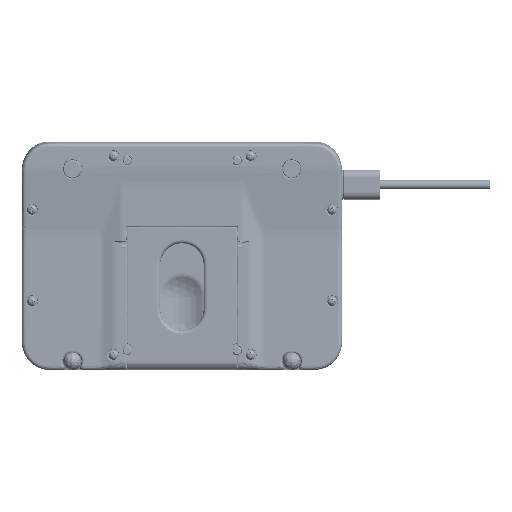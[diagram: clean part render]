
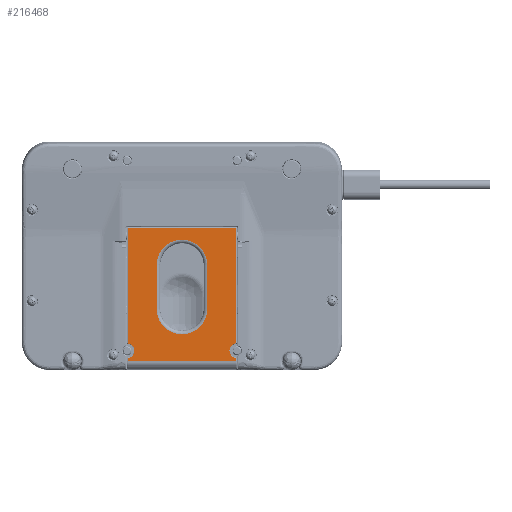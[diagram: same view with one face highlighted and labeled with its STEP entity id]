
A CAD part, top view. The second image highlights one B-rep face of the part: STEP entity #216468.
In plain terms, the highlighted planar face has unit normal (0, 0, 1).
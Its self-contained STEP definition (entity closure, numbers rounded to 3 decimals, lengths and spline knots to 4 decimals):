
#201 = CIRCLE ( 'NONE', #175508, 0.0187 ) ;
#466 = CARTESIAN_POINT ( 'NONE',  ( 1.5, -2.5978, 0.3637 ) ) ;
#540 = DIRECTION ( 'NONE',  ( -1., 0., 0. ) ) ;
#577 = ORIENTED_EDGE ( 'NONE', *, *, #5697, .T. ) ;
#3272 = EDGE_CURVE ( 'NONE', #155389, #196557, #11173, .T. ) ;
#5697 = EDGE_CURVE ( 'NONE', #197631, #163176, #47316, .T. ) ;
#5786 = DIRECTION ( 'NONE',  ( -1., 0., 0. ) ) ;
#6055 = ORIENTED_EDGE ( 'NONE', *, *, #10064, .T. ) ;
#6898 = CARTESIAN_POINT ( 'NONE',  ( 1.4688, -2.3813, 0.3637 ) ) ;
#10064 = EDGE_CURVE ( 'NONE', #45085, #126606, #121980, .T. ) ;
#10121 = LINE ( 'NONE', #226229, #176381 ) ;
#11173 = LINE ( 'NONE', #170160, #69679 ) ;
#12332 = CARTESIAN_POINT ( 'NONE',  ( -0.6937, -1.4551, 0.3637 ) ) ;
#15131 = CARTESIAN_POINT ( 'NONE',  ( -0.6938, -1.2551, 0.3637 ) ) ;
#18212 = ORIENTED_EDGE ( 'NONE', *, *, #144513, .T. ) ;
#18592 = FACE_OUTER_BOUND ( 'NONE', #165431, .T. ) ;
#21418 = CIRCLE ( 'NONE', #151989, 0.0187 ) ;
#21944 = DIRECTION ( 'NONE',  ( 0., 0., -1. ) ) ;
#25001 = AXIS2_PLACEMENT_3D ( 'NONE', #6898, #167013, #5786 ) ;
#27507 = EDGE_CURVE ( 'NONE', #163176, #156752, #10121, .T. ) ;
#31452 = ORIENTED_EDGE ( 'NONE', *, *, #216418, .T. ) ;
#31868 = CIRCLE ( 'NONE', #72868, 0.6937 ) ;
#39203 = CARTESIAN_POINT ( 'NONE',  ( 0.6937, -1.4551, 0.3637 ) ) ;
#39466 = DIRECTION ( 'NONE',  ( -1., 0., 0. ) ) ;
#41490 = VERTEX_POINT ( 'NONE', #190315 ) ;
#43205 = CARTESIAN_POINT ( 'NONE',  ( 1.4875, -1.2551, 0.3637 ) ) ;
#45085 = VERTEX_POINT ( 'NONE', #102358 ) ;
#46898 = VECTOR ( 'NONE', #184648, 39.3701 ) ;
#47107 = CARTESIAN_POINT ( 'NONE',  ( -1.4875, 0.746, 0.3637 ) ) ;
#47316 = LINE ( 'NONE', #115158, #202031 ) ;
#47652 = AXIS2_PLACEMENT_3D ( 'NONE', #156710, #21944, #39466 ) ;
#52189 = CARTESIAN_POINT ( 'NONE',  ( -1.4875, -1.2551, 0.3637 ) ) ;
#53659 = CARTESIAN_POINT ( 'NONE',  ( 1.4875, -2.8143, 0.3637 ) ) ;
#58044 = CARTESIAN_POINT ( 'NONE',  ( 0., -1.4551, 0.3637 ) ) ;
#58214 = FACE_BOUND ( 'NONE', #138550, .T. ) ;
#66942 = VERTEX_POINT ( 'NONE', #140277 ) ;
#68607 = DIRECTION ( 'NONE',  ( 0., 0., 1. ) ) ;
#68825 = CARTESIAN_POINT ( 'NONE',  ( -1.4875, -2.8926, 0.3637 ) ) ;
#69679 = VECTOR ( 'NONE', #206335, 39.3701 ) ;
#70458 = EDGE_CURVE ( 'NONE', #84736, #172700, #21418, .T. ) ;
#72868 = AXIS2_PLACEMENT_3D ( 'NONE', #58044, #129380, #111817 ) ;
#76438 = ORIENTED_EDGE ( 'NONE', *, *, #3272, .T. ) ;
#77229 = LINE ( 'NONE', #205671, #128409 ) ;
#77597 = CARTESIAN_POINT ( 'NONE',  ( 0., -0.2551, 0.3637 ) ) ;
#79579 = EDGE_CURVE ( 'NONE', #176491, #231077, #212252, .T. ) ;
#81959 = CARTESIAN_POINT ( 'NONE',  ( 1.4714, -2.7957, 0.3637 ) ) ;
#84736 = VERTEX_POINT ( 'NONE', #53659 ) ;
#86399 = DIRECTION ( 'NONE',  ( 0., 1., 0. ) ) ;
#88940 = CIRCLE ( 'NONE', #47652, 0.2 ) ;
#89352 = CARTESIAN_POINT ( 'NONE',  ( -1.4688, -2.3813, 0.3637 ) ) ;
#92699 = DIRECTION ( 'NONE',  ( -1., 0., 0. ) ) ;
#94453 = DIRECTION ( 'NONE',  ( -1., 0., 0. ) ) ;
#94695 = LINE ( 'NONE', #43205, #46898 ) ;
#94920 = CARTESIAN_POINT ( 'NONE',  ( 1.4875, -2.3813, 0.3637 ) ) ;
#96458 = DIRECTION ( 'NONE',  ( -1., 0., 0. ) ) ;
#99137 = ORIENTED_EDGE ( 'NONE', *, *, #27507, .T. ) ;
#102358 = CARTESIAN_POINT ( 'NONE',  ( 1.4714, -2.3998, 0.3637 ) ) ;
#103849 = CARTESIAN_POINT ( 'NONE',  ( -0.6938, -0.2551, 0.3637 ) ) ;
#107149 = EDGE_CURVE ( 'NONE', #156752, #109821, #189531, .T. ) ;
#109821 = VERTEX_POINT ( 'NONE', #169360 ) ;
#111817 = DIRECTION ( 'NONE',  ( -1., 0., 0. ) ) ;
#112124 = AXIS2_PLACEMENT_3D ( 'NONE', #466, #128975, #92699 ) ;
#114951 = AXIS2_PLACEMENT_3D ( 'NONE', #89352, #124480, #540 ) ;
#115158 = CARTESIAN_POINT ( 'NONE',  ( 0., 0.746, 0.3637 ) ) ;
#116333 = LINE ( 'NONE', #186413, #145568 ) ;
#118082 = DIRECTION ( 'NONE',  ( 0., 1., 0. ) ) ;
#119788 = VECTOR ( 'NONE', #86399, 39.3701 ) ;
#121980 = CIRCLE ( 'NONE', #25001, 0.0187 ) ;
#124480 = DIRECTION ( 'NONE',  ( 0., 0., 1. ) ) ;
#126133 = CARTESIAN_POINT ( 'NONE',  ( 0., -1.2551, 0.3637 ) ) ;
#126606 = VERTEX_POINT ( 'NONE', #94920 ) ;
#128409 = VECTOR ( 'NONE', #118082, 39.3701 ) ;
#128975 = DIRECTION ( 'NONE',  ( 0., 0., -1. ) ) ;
#129380 = DIRECTION ( 'NONE',  ( 0., 0., -1. ) ) ;
#129552 = PLANE ( 'NONE',  #194495 ) ;
#130232 = DIRECTION ( 'NONE',  ( 0., 0., -1. ) ) ;
#133953 = EDGE_CURVE ( 'NONE', #109821, #41490, #88940, .T. ) ;
#134442 = ORIENTED_EDGE ( 'NONE', *, *, #151635, .T. ) ;
#138550 = EDGE_LOOP ( 'NONE', ( #31452, #18212, #76438, #173852 ) ) ;
#138783 = EDGE_CURVE ( 'NONE', #231077, #66942, #116333, .T. ) ;
#140277 = CARTESIAN_POINT ( 'NONE',  ( 1.4875, -2.8926, 0.3637 ) ) ;
#140612 = ORIENTED_EDGE ( 'NONE', *, *, #146747, .T. ) ;
#142212 = DIRECTION ( 'NONE',  ( 0., -1., 0. ) ) ;
#144513 = EDGE_CURVE ( 'NONE', #195788, #155389, #172747, .T. ) ;
#145568 = VECTOR ( 'NONE', #203954, 39.3701 ) ;
#146747 = EDGE_CURVE ( 'NONE', #126606, #197631, #77229, .T. ) ;
#148212 = CARTESIAN_POINT ( 'NONE',  ( -1.4688, -2.8143, 0.3637 ) ) ;
#151635 = EDGE_CURVE ( 'NONE', #66942, #84736, #94695, .T. ) ;
#151989 = AXIS2_PLACEMENT_3D ( 'NONE', #203469, #154349, #170717 ) ;
#154349 = DIRECTION ( 'NONE',  ( 0., 0., 1. ) ) ;
#155389 = VERTEX_POINT ( 'NONE', #218426 ) ;
#156710 = CARTESIAN_POINT ( 'NONE',  ( -1.5, -2.5978, 0.3637 ) ) ;
#156752 = VERTEX_POINT ( 'NONE', #161061 ) ;
#159269 = EDGE_CURVE ( 'NONE', #172700, #45085, #183000, .T. ) ;
#159717 = EDGE_CURVE ( 'NONE', #41490, #176491, #201, .T. ) ;
#161061 = CARTESIAN_POINT ( 'NONE',  ( -1.4875, -2.3813, 0.3637 ) ) ;
#163176 = VERTEX_POINT ( 'NONE', #47107 ) ;
#163669 = ORIENTED_EDGE ( 'NONE', *, *, #159717, .T. ) ;
#165431 = EDGE_LOOP ( 'NONE', ( #577, #99137, #209827, #221518, #163669, #211166, #187559, #134442, #218777, #180423, #6055, #140612 ) ) ;
#167013 = DIRECTION ( 'NONE',  ( 0., 0., 1. ) ) ;
#167555 = DIRECTION ( 'NONE',  ( -1., 0., 0. ) ) ;
#169243 = EDGE_CURVE ( 'NONE', #196557, #228700, #31868, .T. ) ;
#169360 = CARTESIAN_POINT ( 'NONE',  ( -1.4714, -2.3998, 0.3637 ) ) ;
#170160 = CARTESIAN_POINT ( 'NONE',  ( 0.6937, -1.2551, 0.3637 ) ) ;
#170717 = DIRECTION ( 'NONE',  ( -1., 0., 0. ) ) ;
#172700 = VERTEX_POINT ( 'NONE', #81959 ) ;
#172747 = CIRCLE ( 'NONE', #176436, 0.6937 ) ;
#173852 = ORIENTED_EDGE ( 'NONE', *, *, #169243, .T. ) ;
#175216 = LINE ( 'NONE', #15131, #119788 ) ;
#175508 = AXIS2_PLACEMENT_3D ( 'NONE', #148212, #68607, #206524 ) ;
#176381 = VECTOR ( 'NONE', #207558, 39.3701 ) ;
#176436 = AXIS2_PLACEMENT_3D ( 'NONE', #77597, #130232, #167555 ) ;
#176491 = VERTEX_POINT ( 'NONE', #215501 ) ;
#180423 = ORIENTED_EDGE ( 'NONE', *, *, #159269, .T. ) ;
#183000 = CIRCLE ( 'NONE', #112124, 0.2 ) ;
#184648 = DIRECTION ( 'NONE',  ( 0., 1., 0. ) ) ;
#186413 = CARTESIAN_POINT ( 'NONE',  ( 0., -2.8926, 0.3637 ) ) ;
#187559 = ORIENTED_EDGE ( 'NONE', *, *, #138783, .T. ) ;
#189531 = CIRCLE ( 'NONE', #114951, 0.0187 ) ;
#190315 = CARTESIAN_POINT ( 'NONE',  ( -1.4714, -2.7957, 0.3637 ) ) ;
#194495 = AXIS2_PLACEMENT_3D ( 'NONE', #126133, #217132, #94453 ) ;
#195788 = VERTEX_POINT ( 'NONE', #103849 ) ;
#196557 = VERTEX_POINT ( 'NONE', #39203 ) ;
#197631 = VERTEX_POINT ( 'NONE', #215398 ) ;
#202031 = VECTOR ( 'NONE', #96458, 39.3701 ) ;
#203469 = CARTESIAN_POINT ( 'NONE',  ( 1.4688, -2.8143, 0.3637 ) ) ;
#203954 = DIRECTION ( 'NONE',  ( 1., 0., 0. ) ) ;
#205671 = CARTESIAN_POINT ( 'NONE',  ( 1.4875, -1.2551, 0.3637 ) ) ;
#206335 = DIRECTION ( 'NONE',  ( 0., -1., 0. ) ) ;
#206524 = DIRECTION ( 'NONE',  ( -1., 0., 0. ) ) ;
#207558 = DIRECTION ( 'NONE',  ( 0., -1., 0. ) ) ;
#209827 = ORIENTED_EDGE ( 'NONE', *, *, #107149, .T. ) ;
#211166 = ORIENTED_EDGE ( 'NONE', *, *, #79579, .T. ) ;
#212252 = LINE ( 'NONE', #52189, #220796 ) ;
#215398 = CARTESIAN_POINT ( 'NONE',  ( 1.4875, 0.746, 0.3637 ) ) ;
#215501 = CARTESIAN_POINT ( 'NONE',  ( -1.4875, -2.8143, 0.3637 ) ) ;
#216418 = EDGE_CURVE ( 'NONE', #228700, #195788, #175216, .T. ) ;
#216468 = ADVANCED_FACE ( 'NONE', ( #58214, #18592 ), #129552, .F. ) ;
#217132 = DIRECTION ( 'NONE',  ( 0., 0., -1. ) ) ;
#218426 = CARTESIAN_POINT ( 'NONE',  ( 0.6937, -0.2551, 0.3637 ) ) ;
#218777 = ORIENTED_EDGE ( 'NONE', *, *, #70458, .T. ) ;
#220796 = VECTOR ( 'NONE', #142212, 39.3701 ) ;
#221518 = ORIENTED_EDGE ( 'NONE', *, *, #133953, .T. ) ;
#226229 = CARTESIAN_POINT ( 'NONE',  ( -1.4875, -1.2551, 0.3637 ) ) ;
#228700 = VERTEX_POINT ( 'NONE', #12332 ) ;
#231077 = VERTEX_POINT ( 'NONE', #68825 ) ;
